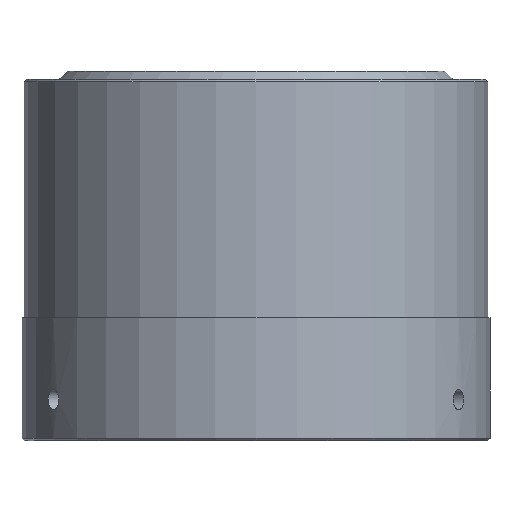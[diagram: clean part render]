
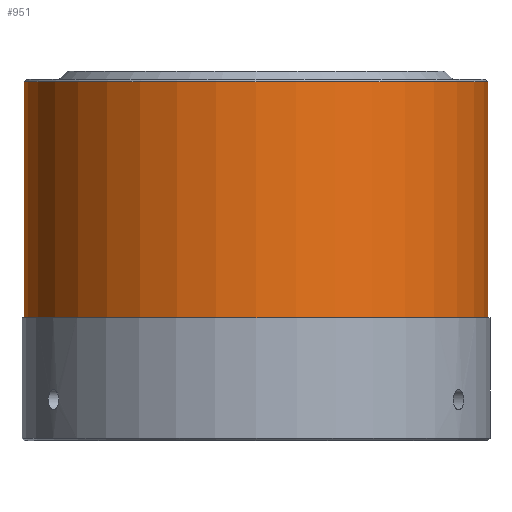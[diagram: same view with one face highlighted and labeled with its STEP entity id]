
A CAD part, front view. The second image highlights one B-rep face of the part: STEP entity #951.
In plain terms, the highlighted cylindrical face has radius 28.25 mm (diameter 56.5 mm), a partial arc.
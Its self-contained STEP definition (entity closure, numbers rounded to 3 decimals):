
#2 = LINE ( 'NONE', #968, #1005 ) ;
#17 = DIRECTION ( 'NONE',  ( 1., 0., 0. ) ) ;
#22 = CARTESIAN_POINT ( 'NONE',  ( -28.25, 0., 0. ) ) ;
#107 = CARTESIAN_POINT ( 'NONE',  ( 0., 0., -1.3 ) ) ;
#124 = CARTESIAN_POINT ( 'NONE',  ( -28.25, 0., -1.3 ) ) ;
#161 = AXIS2_PLACEMENT_3D ( 'NONE', #496, #756, #17 ) ;
#192 = DIRECTION ( 'NONE',  ( 0., 0., 1. ) ) ;
#199 = CARTESIAN_POINT ( 'NONE',  ( 28.25, 0., -30. ) ) ;
#208 = CARTESIAN_POINT ( 'NONE',  ( 0., 0., 0. ) ) ;
#249 = ORIENTED_EDGE ( 'NONE', *, *, #448, .F. ) ;
#264 = CARTESIAN_POINT ( 'NONE',  ( -28.25, 0., -30. ) ) ;
#271 = VERTEX_POINT ( 'NONE', #264 ) ;
#278 = CYLINDRICAL_SURFACE ( 'NONE', #903, 28.25 ) ;
#291 = EDGE_CURVE ( 'NONE', #271, #1010, #296, .T. ) ;
#296 = CIRCLE ( 'NONE', #161, 28.25 ) ;
#335 = ORIENTED_EDGE ( 'NONE', *, *, #899, .T. ) ;
#390 = ORIENTED_EDGE ( 'NONE', *, *, #552, .T. ) ;
#425 = DIRECTION ( 'NONE',  ( -1., 0., 0. ) ) ;
#446 = CIRCLE ( 'NONE', #692, 28.25 ) ;
#448 = EDGE_CURVE ( 'NONE', #271, #950, #741, .T. ) ;
#496 = CARTESIAN_POINT ( 'NONE',  ( 0., 0., -30. ) ) ;
#552 = EDGE_CURVE ( 'NONE', #1010, #591, #2, .T. ) ;
#591 = VERTEX_POINT ( 'NONE', #962 ) ;
#603 = FACE_OUTER_BOUND ( 'NONE', #659, .T. ) ;
#629 = VECTOR ( 'NONE', #993, 1000. ) ;
#659 = EDGE_LOOP ( 'NONE', ( #249, #1052, #390, #335 ) ) ;
#692 = AXIS2_PLACEMENT_3D ( 'NONE', #107, #909, #425 ) ;
#725 = DIRECTION ( 'NONE',  ( 0., 0., 1. ) ) ;
#741 = LINE ( 'NONE', #22, #629 ) ;
#756 = DIRECTION ( 'NONE',  ( 0., 0., 1. ) ) ;
#761 = DIRECTION ( 'NONE',  ( 1., 0., 0. ) ) ;
#899 = EDGE_CURVE ( 'NONE', #591, #950, #446, .T. ) ;
#903 = AXIS2_PLACEMENT_3D ( 'NONE', #208, #192, #761 ) ;
#909 = DIRECTION ( 'NONE',  ( 0., 0., -1. ) ) ;
#950 = VERTEX_POINT ( 'NONE', #124 ) ;
#951 = ADVANCED_FACE ( 'NONE', ( #603 ), #278, .T. ) ;
#962 = CARTESIAN_POINT ( 'NONE',  ( 28.25, 0., -1.3 ) ) ;
#968 = CARTESIAN_POINT ( 'NONE',  ( 28.25, 0., 0. ) ) ;
#993 = DIRECTION ( 'NONE',  ( 0., 0., 1. ) ) ;
#1005 = VECTOR ( 'NONE', #725, 1000. ) ;
#1010 = VERTEX_POINT ( 'NONE', #199 ) ;
#1052 = ORIENTED_EDGE ( 'NONE', *, *, #291, .T. ) ;
